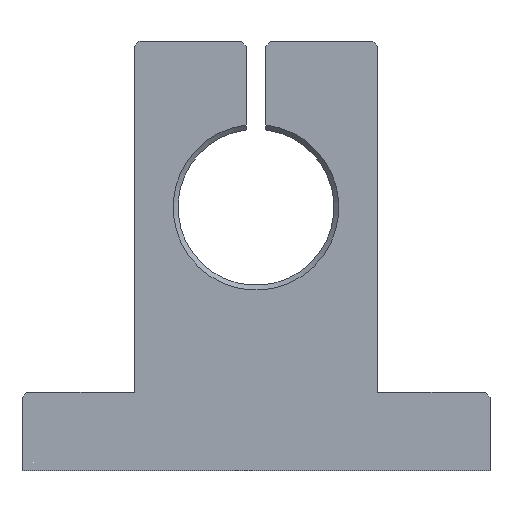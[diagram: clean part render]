
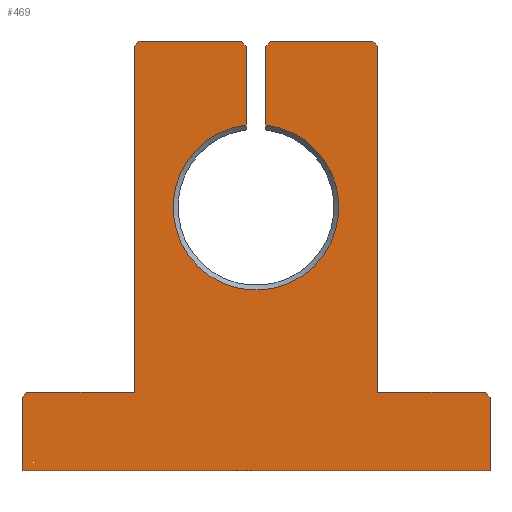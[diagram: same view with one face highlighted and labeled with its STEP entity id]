
A CAD part, left-side view. The second image highlights one B-rep face of the part: STEP entity #469.
In plain terms, the highlighted planar face has unit normal (-1, 0, 0).
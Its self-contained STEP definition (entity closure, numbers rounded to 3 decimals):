
#28=CIRCLE('',#514,8.5);
#40=FACE_OUTER_BOUND('',#64,.T.);
#64=EDGE_LOOP('',(#320,#321,#322,#323,#324,#325,#326,#327,#328,#329,#330,
#331,#332,#333,#334,#335,#336,#337));
#90=LINE('',#673,#144);
#94=LINE('',#681,#148);
#97=LINE('',#687,#151);
#98=LINE('',#691,#152);
#99=LINE('',#693,#153);
#100=LINE('',#695,#154);
#101=LINE('',#697,#155);
#102=LINE('',#699,#156);
#103=LINE('',#701,#157);
#104=LINE('',#703,#158);
#105=LINE('',#705,#159);
#106=LINE('',#707,#160);
#107=LINE('',#709,#161);
#108=LINE('',#711,#162);
#109=LINE('',#713,#163);
#110=LINE('',#715,#164);
#111=LINE('',#716,#165);
#144=VECTOR('',#549,10.);
#148=VECTOR('',#555,10.);
#151=VECTOR('',#560,10.);
#152=VECTOR('',#563,10.);
#153=VECTOR('',#564,10.);
#154=VECTOR('',#565,10.);
#155=VECTOR('',#566,10.);
#156=VECTOR('',#567,10.);
#157=VECTOR('',#568,10.);
#158=VECTOR('',#569,10.);
#159=VECTOR('',#570,10.);
#160=VECTOR('',#571,10.);
#161=VECTOR('',#572,10.);
#162=VECTOR('',#573,10.);
#163=VECTOR('',#574,10.);
#164=VECTOR('',#575,10.);
#165=VECTOR('',#576,10.);
#198=VERTEX_POINT('',#671);
#199=VERTEX_POINT('',#672);
#202=VERTEX_POINT('',#680);
#204=VERTEX_POINT('',#686);
#205=VERTEX_POINT('',#688);
#206=VERTEX_POINT('',#690);
#207=VERTEX_POINT('',#692);
#208=VERTEX_POINT('',#694);
#209=VERTEX_POINT('',#696);
#210=VERTEX_POINT('',#698);
#211=VERTEX_POINT('',#700);
#212=VERTEX_POINT('',#702);
#213=VERTEX_POINT('',#704);
#214=VERTEX_POINT('',#706);
#215=VERTEX_POINT('',#708);
#216=VERTEX_POINT('',#710);
#217=VERTEX_POINT('',#712);
#218=VERTEX_POINT('',#714);
#244=EDGE_CURVE('',#198,#199,#90,.T.);
#248=EDGE_CURVE('',#199,#202,#94,.T.);
#251=EDGE_CURVE('',#198,#204,#97,.T.);
#252=EDGE_CURVE('',#205,#204,#28,.T.);
#253=EDGE_CURVE('',#205,#206,#98,.T.);
#254=EDGE_CURVE('',#207,#206,#99,.T.);
#255=EDGE_CURVE('',#208,#207,#100,.T.);
#256=EDGE_CURVE('',#209,#208,#101,.T.);
#257=EDGE_CURVE('',#210,#209,#102,.T.);
#258=EDGE_CURVE('',#211,#210,#103,.T.);
#259=EDGE_CURVE('',#212,#211,#104,.T.);
#260=EDGE_CURVE('',#213,#212,#105,.T.);
#261=EDGE_CURVE('',#214,#213,#106,.T.);
#262=EDGE_CURVE('',#215,#214,#107,.T.);
#263=EDGE_CURVE('',#216,#215,#108,.T.);
#264=EDGE_CURVE('',#217,#216,#109,.T.);
#265=EDGE_CURVE('',#218,#217,#110,.T.);
#266=EDGE_CURVE('',#202,#218,#111,.T.);
#320=ORIENTED_EDGE('',*,*,#244,.F.);
#321=ORIENTED_EDGE('',*,*,#251,.T.);
#322=ORIENTED_EDGE('',*,*,#252,.F.);
#323=ORIENTED_EDGE('',*,*,#253,.T.);
#324=ORIENTED_EDGE('',*,*,#254,.F.);
#325=ORIENTED_EDGE('',*,*,#255,.F.);
#326=ORIENTED_EDGE('',*,*,#256,.F.);
#327=ORIENTED_EDGE('',*,*,#257,.F.);
#328=ORIENTED_EDGE('',*,*,#258,.F.);
#329=ORIENTED_EDGE('',*,*,#259,.F.);
#330=ORIENTED_EDGE('',*,*,#260,.F.);
#331=ORIENTED_EDGE('',*,*,#261,.F.);
#332=ORIENTED_EDGE('',*,*,#262,.F.);
#333=ORIENTED_EDGE('',*,*,#263,.F.);
#334=ORIENTED_EDGE('',*,*,#264,.F.);
#335=ORIENTED_EDGE('',*,*,#265,.F.);
#336=ORIENTED_EDGE('',*,*,#266,.F.);
#337=ORIENTED_EDGE('',*,*,#248,.F.);
#450=PLANE('',#513);
#469=ADVANCED_FACE('',(#40),#450,.F.);
#513=AXIS2_PLACEMENT_3D('',#685,#558,#559);
#514=AXIS2_PLACEMENT_3D('',#689,#561,#562);
#549=DIRECTION('',(0.,-0.707,0.707));
#555=DIRECTION('',(0.,-1.,0.));
#558=DIRECTION('center_axis',(1.,0.,0.));
#559=DIRECTION('ref_axis',(0.,0.,-1.));
#560=DIRECTION('',(0.,0.,-1.));
#561=DIRECTION('center_axis',(-1.,0.,0.));
#562=DIRECTION('ref_axis',(0.,0.,-1.));
#563=DIRECTION('',(0.,0.,1.));
#564=DIRECTION('',(0.,-0.707,-0.707));
#565=DIRECTION('',(0.,-1.,0.));
#566=DIRECTION('',(0.,-0.707,0.707));
#567=DIRECTION('',(0.,0.,1.));
#568=DIRECTION('',(0.,-1.,0.));
#569=DIRECTION('',(0.,-0.707,0.707));
#570=DIRECTION('',(0.,0.,1.));
#571=DIRECTION('',(0.,1.,0.));
#572=DIRECTION('',(0.,0.,-1.));
#573=DIRECTION('',(0.,-0.707,-0.707));
#574=DIRECTION('',(0.,-1.,0.));
#575=DIRECTION('',(0.,0.,-1.));
#576=DIRECTION('',(0.,-0.707,-0.707));
#671=CARTESIAN_POINT('',(0.,-1.,43.5));
#672=CARTESIAN_POINT('',(0.,-1.5,44.));
#673=CARTESIAN_POINT('',(0.,7.5,35.));
#680=CARTESIAN_POINT('',(0.,-12.,44.));
#681=CARTESIAN_POINT('',(0.,12.5,44.));
#685=CARTESIAN_POINT('Origin',(0.,8.956,18.956));
#686=CARTESIAN_POINT('',(0.,-1.,35.441));
#687=CARTESIAN_POINT('',(0.,-1.,24.104));
#688=CARTESIAN_POINT('',(0.,1.,35.441));
#689=CARTESIAN_POINT('Origin',(0.,0.,27.));
#690=CARTESIAN_POINT('',(0.,1.,43.5));
#691=CARTESIAN_POINT('',(0.,1.,37.557));
#692=CARTESIAN_POINT('',(0.,1.5,44.));
#693=CARTESIAN_POINT('',(0.,-3.022,39.478));
#694=CARTESIAN_POINT('',(0.,12.,44.));
#695=CARTESIAN_POINT('',(0.,12.5,44.));
#696=CARTESIAN_POINT('',(0.,12.5,43.5));
#697=CARTESIAN_POINT('',(0.,17.625,38.375));
#698=CARTESIAN_POINT('',(0.,12.5,8.));
#699=CARTESIAN_POINT('',(0.,12.5,8.));
#700=CARTESIAN_POINT('',(0.,23.5,8.));
#701=CARTESIAN_POINT('',(0.,24.,8.));
#702=CARTESIAN_POINT('',(0.,24.,7.5));
#703=CARTESIAN_POINT('',(0.,17.25,14.25));
#704=CARTESIAN_POINT('',(0.,24.,0.));
#705=CARTESIAN_POINT('',(0.,24.,0.));
#706=CARTESIAN_POINT('',(0.,-24.,0.));
#707=CARTESIAN_POINT('',(0.,0.,0.));
#708=CARTESIAN_POINT('',(0.,-24.,7.5));
#709=CARTESIAN_POINT('',(0.,-24.,8.));
#710=CARTESIAN_POINT('',(0.,-23.5,8.));
#711=CARTESIAN_POINT('',(0.,-12.772,18.728));
#712=CARTESIAN_POINT('',(0.,-12.5,8.));
#713=CARTESIAN_POINT('',(0.,-12.5,8.));
#714=CARTESIAN_POINT('',(0.,-12.5,43.5));
#715=CARTESIAN_POINT('',(0.,-12.5,44.));
#716=CARTESIAN_POINT('',(0.,-13.147,42.853));
